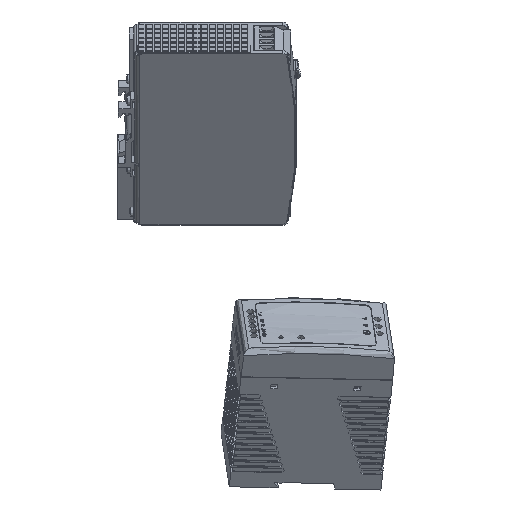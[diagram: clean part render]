
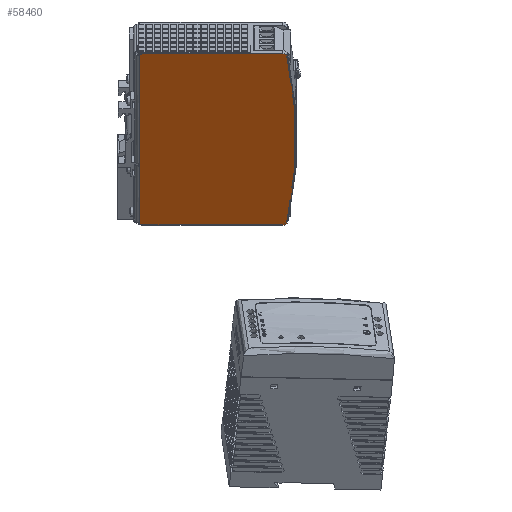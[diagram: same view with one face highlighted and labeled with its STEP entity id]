
A CAD part, isometric view. The second image highlights one B-rep face of the part: STEP entity #58460.
In plain terms, the highlighted planar face has unit normal (-0.707, -0.707, 0).
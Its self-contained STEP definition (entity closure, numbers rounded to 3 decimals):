
#58460=ADVANCED_FACE('', (#58470), #58480, .T.);
#212740=AXIS2_PLACEMENT_3D('Ax2Pl3d', #212750, #212760, #212770);
#212820=AXIS2_PLACEMENT_3D('Ax2Pl3d', #212830, #212840, #212850);
#212900=AXIS2_PLACEMENT_3D('Ax2Pl3d', #212910, #212920, #212930);
#214020=AXIS2_PLACEMENT_3D('Ax2Pl3d', #214030, #214040, #214050);
#1731180=CARTESIAN_POINT('', (-1034.007,751.964,
-168.727));
#1731190=CARTESIAN_POINT('', (-1034.007,751.964,
-168.727));
#1731200=CARTESIAN_POINT('', (-975.364,693.322,
-168.727));
#1738060=CARTESIAN_POINT('', (-1034.855,752.813,
-169.227));
#1738070=CARTESIAN_POINT('', (-1034.855,752.813,
-169.227));
#1738080=CARTESIAN_POINT('', (-1034.007,751.964,
-169.227));
#1738130=CARTESIAN_POINT('', (-1034.007,751.964,
-168.727));
#212750=CARTESIAN_POINT('HicPkt', (-975.364,693.322,
-171.727));
#1738290=CARTESIAN_POINT('', (-973.278,691.235,
-171.186));
#212830=CARTESIAN_POINT('HicPkt', (-1202.793,920.751,
-230.727));
#1738310=CARTESIAN_POINT('', (-973.278,691.235,
-290.269));
#212910=CARTESIAN_POINT('HicPkt', (-975.364,693.322,
-289.727));
#1738330=CARTESIAN_POINT('', (-975.364,693.322,
-292.727));
#214030=CARTESIAN_POINT('HicPkt', (-1209.389,927.347,
-402.742));
#1739150=CARTESIAN_POINT('', (-1034.007,751.964,
-292.227));
#1739160=CARTESIAN_POINT('', (-1034.007,751.964,
-292.727));
#1739170=CARTESIAN_POINT('', (-1034.007,751.964,
-292.227));
#1739180=CARTESIAN_POINT('', (-975.364,693.322,
-292.727));
#1739190=CARTESIAN_POINT('', (-1034.855,752.813,
-292.227));
#1739200=CARTESIAN_POINT('', (-1034.855,752.813,
-292.227));
#1739210=CARTESIAN_POINT('', (-1034.007,751.964,
-292.227));
#1794530=CIRCLE('Circle', #212740, 3.);
#1794540=CIRCLE('Circle', #212820, 330.);
#1794550=CIRCLE('Circle', #212900, 3.);
#2119920=DIRECTION('', (-0.707,0.707,0.));
#2123360=DIRECTION('', (-0.707,0.707,0.));
#2123400=DIRECTION('', (0.,0.,1.));
#212760=DIRECTION('Axis', (-0.707,-0.707,
0.));
#212770=DIRECTION('RefDirection', (0.,
0.,-1.));
#212840=DIRECTION('Axis', (-0.707,-0.707,
0.));
#212850=DIRECTION('RefDirection', (0.,
0.,-1.));
#212920=DIRECTION('Axis', (-0.707,-0.707,
0.));
#212930=DIRECTION('RefDirection', (0.,
0.,-1.));
#214040=DIRECTION('Axis', (-0.707,-0.707,
0.));
#214050=DIRECTION('RefDirection', (0.,
0.,-1.));
#2123930=DIRECTION('', (0.,0.,1.));
#2123940=DIRECTION('', (0.707,-0.707,0.));
#2123950=DIRECTION('', (0.,0.,-1.));
#2123960=DIRECTION('', (0.707,-0.707,0.));
#2275500=EDGE_CURVE('', #2275510, #2275480, #2275520, .T.);
#2285850=EDGE_CURVE('', #2285860, #2285840, #2285870, .T.);
#2285960=EDGE_CURVE('', #2285860, #2275480, #2285970, .T.);
#2286240=EDGE_CURVE('', #2286250, #2275510, #1794530, .T.);
#2286280=EDGE_CURVE('', #2286290, #2286250, #1794540, .T.);
#2286320=EDGE_CURVE('', #2286330, #2286290, #1794550, .T.);
#2287720=EDGE_CURVE('', #2287730, #2287740, #2287750, .T.);
#2287760=EDGE_CURVE('', #2287730, #2286330, #2287770, .T.);
#2287780=EDGE_CURVE('', #2285840, #2287790, #2287800, .T.);
#2287810=EDGE_CURVE('', #2287790, #2287740, #2287820, .T.);
#2499180=EDGE_LOOP('Edge_loop', (#2499190,#2499200,#2499210,#2499220,
#2499230,#2499240,#2499250,#2499260,#2499270,#2499280));
#58470=FACE_OUTER_BOUND('Face_outer_bound', #2499180, .T.);
#2275520=LINE('Line', #1731190, #2691150);
#2285870=LINE('Line', #1738070, #2694590);
#2285970=LINE('Line', #1738130, #2694630);
#2287750=LINE('Line', #1739150, #2695160);
#2287770=LINE('Line', #1739180, #2695170);
#2287800=LINE('Line', #1739190, #2695180);
#2287820=LINE('Line', #1739210, #2695190);
#2499190=ORIENTED_EDGE('', *, *, #2287720, .F.);
#2499200=ORIENTED_EDGE('', *, *, #2287760, .T.);
#2499210=ORIENTED_EDGE('', *, *, #2286320, .T.);
#2499220=ORIENTED_EDGE('', *, *, #2286280, .T.);
#2499230=ORIENTED_EDGE('', *, *, #2286240, .T.);
#2499240=ORIENTED_EDGE('', *, *, #2275500, .T.);
#2499250=ORIENTED_EDGE('', *, *, #2285960, .F.);
#2499260=ORIENTED_EDGE('', *, *, #2285850, .T.);
#2499270=ORIENTED_EDGE('', *, *, #2287780, .T.);
#2499280=ORIENTED_EDGE('', *, *, #2287810, .T.);
#58480=PLANE('Plane', #214020);
#2691150=VECTOR('', #2119920, 82.933);
#2694590=VECTOR('', #2123360, 1.2);
#2694630=VECTOR('', #2123400, 0.5);
#2695160=VECTOR('', #2123930, 0.5);
#2695170=VECTOR('', #2123940, 82.933);
#2695180=VECTOR('', #2123950, 123.);
#2695190=VECTOR('', #2123960, 1.2);
#2275480=VERTEX_POINT('', #1731180);
#2275510=VERTEX_POINT('', #1731200);
#2285840=VERTEX_POINT('', #1738060);
#2285860=VERTEX_POINT('', #1738080);
#2286250=VERTEX_POINT('', #1738290);
#2286290=VERTEX_POINT('', #1738310);
#2286330=VERTEX_POINT('', #1738330);
#2287730=VERTEX_POINT('', #1739160);
#2287740=VERTEX_POINT('', #1739170);
#2287790=VERTEX_POINT('', #1739200);
